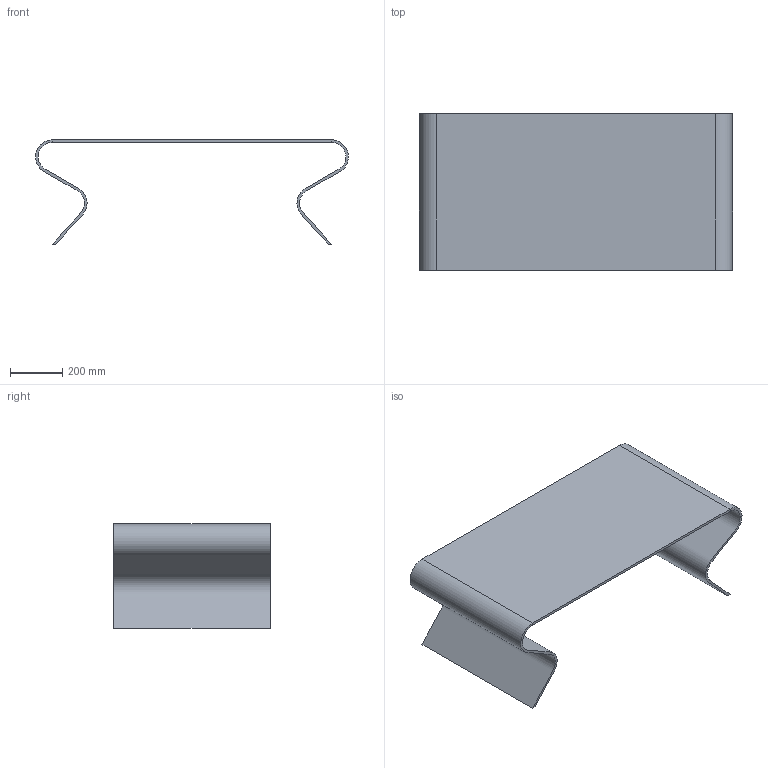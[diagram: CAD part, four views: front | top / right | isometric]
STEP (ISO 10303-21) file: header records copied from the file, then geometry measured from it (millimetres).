
FILE_DESCRIPTION(/* description */ (''),/* implementation_level */ '2;1');
FILE_NAME(/* name */ '1540 - Charlotte 120x60',/* time_stamp */ '2010-11-03T17:22:27+01:00',/* author */ (''),/* organization */ (''),/* preprocessor_version */ 'ST-DEVELOPER v10',/* originating_system */ '',/* authorisation */ '');
FILE_SCHEMA (('CONFIG_CONTROL_DESIGN'));
Length unit declared in the file: centimetre
Products named in the file (1): 1
Bounding box: 1199.97 x 600 x 400 mm (x, y, z)
Volume: 14646689.8 mm3; surface area: 2715486.2 mm2
Topology: 1 solids, 1 shells, 14 faces, 28 edges, 16 vertices
Faces by surface type: plane 10, bspline 4
Entity records: 564 total; most frequent: CARTESIAN_POINT 284, ORIENTED_EDGE 56, EDGE_CURVE 28, VERTEX_POINT 16, B_SPLINE_CURVE_WITH_KNOTS 16, ADVANCED_FACE 14, FACE_OUTER_BOUND 14, EDGE_LOOP 14
